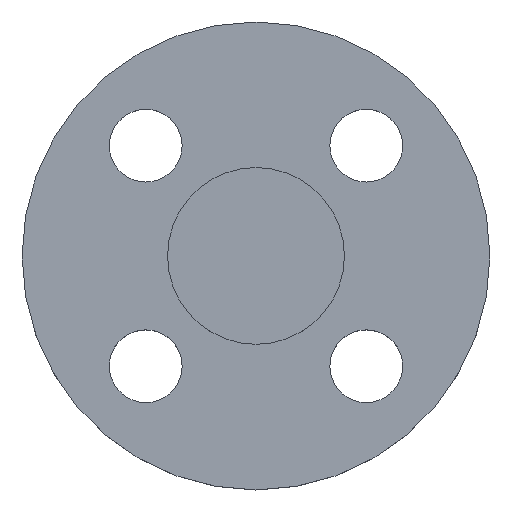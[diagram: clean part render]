
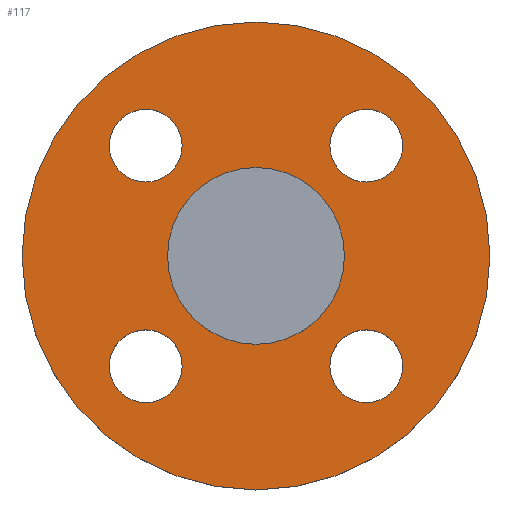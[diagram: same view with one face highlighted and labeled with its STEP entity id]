
A CAD part, top view. The second image highlights one B-rep face of the part: STEP entity #117.
In plain terms, the highlighted planar face has unit normal (0, 0, 1).
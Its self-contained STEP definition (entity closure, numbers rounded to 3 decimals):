
#4 = CIRCLE ( 'NONE', #603, 7. ) ;
#11 = DIRECTION ( 'NONE',  ( -1., 0., 0. ) ) ;
#12 = EDGE_CURVE ( 'NONE', #312, #237, #106, .T. ) ;
#17 = CIRCLE ( 'NONE', #251, 7. ) ;
#23 = AXIS2_PLACEMENT_3D ( 'NONE', #644, #645, #646 ) ;
#44 = DIRECTION ( 'NONE',  ( 0., 0., -1. ) ) ;
#48 = AXIS2_PLACEMENT_3D ( 'NONE', #62, #63, #57 ) ;
#57 = DIRECTION ( 'NONE',  ( -1., 0., 0. ) ) ;
#62 = CARTESIAN_POINT ( 'NONE',  ( 0., 0., -4.5 ) ) ;
#63 = DIRECTION ( 'NONE',  ( 0., 0., -1. ) ) ;
#64 = AXIS2_PLACEMENT_3D ( 'NONE', #488, #489, #490 ) ;
#73 = CARTESIAN_POINT ( 'NONE',  ( 0., 0., -4.5 ) ) ;
#91 = CARTESIAN_POINT ( 'NONE',  ( 14.213, 21.213, -4.5 ) ) ;
#94 = EDGE_CURVE ( 'NONE', #274, #281, #409, .T. ) ;
#97 = CARTESIAN_POINT ( 'NONE',  ( 45., 0., -4.5 ) ) ;
#105 = CARTESIAN_POINT ( 'NONE',  ( 28.213, -21.213, -4.5 ) ) ;
#106 = CIRCLE ( 'NONE', #456, 7. ) ;
#107 = CARTESIAN_POINT ( 'NONE',  ( -45., 0., -4.5 ) ) ;
#117 = ADVANCED_FACE ( 'NONE', ( #480, #481, #482, #483, #484, #486 ), #487, .T. ) ;
#118 = CIRCLE ( 'NONE', #219, 17. ) ;
#130 = CARTESIAN_POINT ( 'NONE',  ( -21.213, 21.213, -4.5 ) ) ;
#131 = DIRECTION ( 'NONE',  ( 0., 0., -1. ) ) ;
#132 = DIRECTION ( 'NONE',  ( 1., 0., 0. ) ) ;
#138 = CARTESIAN_POINT ( 'NONE',  ( 21.213, -21.213, -4.5 ) ) ;
#139 = DIRECTION ( 'NONE',  ( 0., 0., -1. ) ) ;
#141 = DIRECTION ( 'NONE',  ( 1., 0., 0. ) ) ;
#143 = CARTESIAN_POINT ( 'NONE',  ( -17., 0., -4.5 ) ) ;
#195 = AXIS2_PLACEMENT_3D ( 'NONE', #470, #471, #472 ) ;
#204 = EDGE_CURVE ( 'NONE', #236, #255, #17, .T. ) ;
#213 = CIRCLE ( 'NONE', #578, 45. ) ;
#214 = EDGE_CURVE ( 'NONE', #237, #312, #518, .T. ) ;
#216 = CIRCLE ( 'NONE', #23, 7. ) ;
#219 = AXIS2_PLACEMENT_3D ( 'NONE', #558, #559, #560 ) ;
#221 = EDGE_CURVE ( 'NONE', #263, #402, #118, .T. ) ;
#236 = VERTEX_POINT ( 'NONE', #599 ) ;
#237 = VERTEX_POINT ( 'NONE', #600 ) ;
#238 = VERTEX_POINT ( 'NONE', #601 ) ;
#240 = EDGE_LOOP ( 'NONE', ( #330, #331 ) ) ;
#242 = ORIENTED_EDGE ( 'NONE', *, *, #204, .T. ) ;
#245 = ORIENTED_EDGE ( 'NONE', *, *, #279, .T. ) ;
#246 = ORIENTED_EDGE ( 'NONE', *, *, #94, .T. ) ;
#251 = AXIS2_PLACEMENT_3D ( 'NONE', #545, #546, #547 ) ;
#254 = EDGE_CURVE ( 'NONE', #321, #348, #213, .T. ) ;
#255 = VERTEX_POINT ( 'NONE', #627 ) ;
#263 = VERTEX_POINT ( 'NONE', #629 ) ;
#268 = EDGE_LOOP ( 'NONE', ( #334, #335 ) ) ;
#271 = EDGE_CURVE ( 'NONE', #341, #238, #4, .T. ) ;
#274 = VERTEX_POINT ( 'NONE', #643 ) ;
#279 = EDGE_CURVE ( 'NONE', #255, #236, #216, .T. ) ;
#280 = EDGE_LOOP ( 'NONE', ( #340, #342 ) ) ;
#281 = VERTEX_POINT ( 'NONE', #647 ) ;
#290 = EDGE_LOOP ( 'NONE', ( #336, #337 ) ) ;
#312 = VERTEX_POINT ( 'NONE', #91 ) ;
#321 = VERTEX_POINT ( 'NONE', #97 ) ;
#324 = CIRCLE ( 'NONE', #614, 7. ) ;
#330 = ORIENTED_EDGE ( 'NONE', *, *, #271, .T. ) ;
#331 = ORIENTED_EDGE ( 'NONE', *, *, #398, .T. ) ;
#333 = ORIENTED_EDGE ( 'NONE', *, *, #374, .T. ) ;
#334 = ORIENTED_EDGE ( 'NONE', *, *, #214, .T. ) ;
#335 = ORIENTED_EDGE ( 'NONE', *, *, #12, .T. ) ;
#336 = ORIENTED_EDGE ( 'NONE', *, *, #628, .T. ) ;
#337 = ORIENTED_EDGE ( 'NONE', *, *, #221, .T. ) ;
#340 = ORIENTED_EDGE ( 'NONE', *, *, #254, .F. ) ;
#341 = VERTEX_POINT ( 'NONE', #105 ) ;
#342 = ORIENTED_EDGE ( 'NONE', *, *, #609, .F. ) ;
#348 = VERTEX_POINT ( 'NONE', #107 ) ;
#374 = EDGE_CURVE ( 'NONE', #281, #274, #324, .T. ) ;
#397 = EDGE_LOOP ( 'NONE', ( #242, #245 ) ) ;
#398 = EDGE_CURVE ( 'NONE', #238, #341, #477, .T. ) ;
#402 = VERTEX_POINT ( 'NONE', #143 ) ;
#409 = CIRCLE ( 'NONE', #195, 7. ) ;
#424 = EDGE_LOOP ( 'NONE', ( #246, #333 ) ) ;
#439 = CARTESIAN_POINT ( 'NONE',  ( 21.213, 21.213, -4.5 ) ) ;
#441 = DIRECTION ( 'NONE',  ( 0., 0., -1. ) ) ;
#442 = DIRECTION ( 'NONE',  ( 1., 0., 0. ) ) ;
#456 = AXIS2_PLACEMENT_3D ( 'NONE', #439, #441, #442 ) ;
#470 = CARTESIAN_POINT ( 'NONE',  ( -21.213, 21.213, -4.5 ) ) ;
#471 = DIRECTION ( 'NONE',  ( 0., 0., -1. ) ) ;
#472 = DIRECTION ( 'NONE',  ( 1., 0., 0. ) ) ;
#477 = CIRCLE ( 'NONE', #634, 7. ) ;
#480 = FACE_BOUND ( 'NONE', #240, .T. ) ;
#481 = FACE_BOUND ( 'NONE', #397, .T. ) ;
#482 = FACE_BOUND ( 'NONE', #424, .T. ) ;
#483 = FACE_BOUND ( 'NONE', #268, .T. ) ;
#484 = FACE_BOUND ( 'NONE', #290, .T. ) ;
#486 = FACE_OUTER_BOUND ( 'NONE', #280, .T. ) ;
#487 = PLANE ( 'NONE',  #64 ) ;
#488 = CARTESIAN_POINT ( 'NONE',  ( 17., 0., -4.5 ) ) ;
#489 = DIRECTION ( 'NONE',  ( 0., 0., 1. ) ) ;
#490 = DIRECTION ( 'NONE',  ( 1., 0., 0. ) ) ;
#518 = CIRCLE ( 'NONE', #523, 7. ) ;
#523 = AXIS2_PLACEMENT_3D ( 'NONE', #551, #552, #553 ) ;
#545 = CARTESIAN_POINT ( 'NONE',  ( -21.213, -21.213, -4.5 ) ) ;
#546 = DIRECTION ( 'NONE',  ( 0., 0., -1. ) ) ;
#547 = DIRECTION ( 'NONE',  ( 1., 0., 0. ) ) ;
#551 = CARTESIAN_POINT ( 'NONE',  ( 21.213, 21.213, -4.5 ) ) ;
#552 = DIRECTION ( 'NONE',  ( 0., 0., -1. ) ) ;
#553 = DIRECTION ( 'NONE',  ( 1., 0., 0. ) ) ;
#558 = CARTESIAN_POINT ( 'NONE',  ( 0., 0., -4.5 ) ) ;
#559 = DIRECTION ( 'NONE',  ( 0., 0., -1. ) ) ;
#560 = DIRECTION ( 'NONE',  ( -1., 0., 0. ) ) ;
#576 = CIRCLE ( 'NONE', #617, 17. ) ;
#578 = AXIS2_PLACEMENT_3D ( 'NONE', #604, #623, #626 ) ;
#599 = CARTESIAN_POINT ( 'NONE',  ( -14.213, -21.213, -4.5 ) ) ;
#600 = CARTESIAN_POINT ( 'NONE',  ( 28.213, 21.213, -4.5 ) ) ;
#601 = CARTESIAN_POINT ( 'NONE',  ( 14.213, -21.213, -4.5 ) ) ;
#603 = AXIS2_PLACEMENT_3D ( 'NONE', #633, #635, #636 ) ;
#604 = CARTESIAN_POINT ( 'NONE',  ( 0., 0., -4.5 ) ) ;
#609 = EDGE_CURVE ( 'NONE', #348, #321, #621, .T. ) ;
#614 = AXIS2_PLACEMENT_3D ( 'NONE', #130, #131, #132 ) ;
#617 = AXIS2_PLACEMENT_3D ( 'NONE', #73, #44, #11 ) ;
#621 = CIRCLE ( 'NONE', #48, 45. ) ;
#623 = DIRECTION ( 'NONE',  ( 0., 0., -1. ) ) ;
#626 = DIRECTION ( 'NONE',  ( -1., 0., 0. ) ) ;
#627 = CARTESIAN_POINT ( 'NONE',  ( -28.213, -21.213, -4.5 ) ) ;
#628 = EDGE_CURVE ( 'NONE', #402, #263, #576, .T. ) ;
#629 = CARTESIAN_POINT ( 'NONE',  ( 17., 0., -4.5 ) ) ;
#633 = CARTESIAN_POINT ( 'NONE',  ( 21.213, -21.213, -4.5 ) ) ;
#634 = AXIS2_PLACEMENT_3D ( 'NONE', #138, #139, #141 ) ;
#635 = DIRECTION ( 'NONE',  ( 0., 0., -1. ) ) ;
#636 = DIRECTION ( 'NONE',  ( 1., 0., 0. ) ) ;
#643 = CARTESIAN_POINT ( 'NONE',  ( -14.213, 21.213, -4.5 ) ) ;
#644 = CARTESIAN_POINT ( 'NONE',  ( -21.213, -21.213, -4.5 ) ) ;
#645 = DIRECTION ( 'NONE',  ( 0., 0., -1. ) ) ;
#646 = DIRECTION ( 'NONE',  ( 1., 0., 0. ) ) ;
#647 = CARTESIAN_POINT ( 'NONE',  ( -28.213, 21.213, -4.5 ) ) ;
